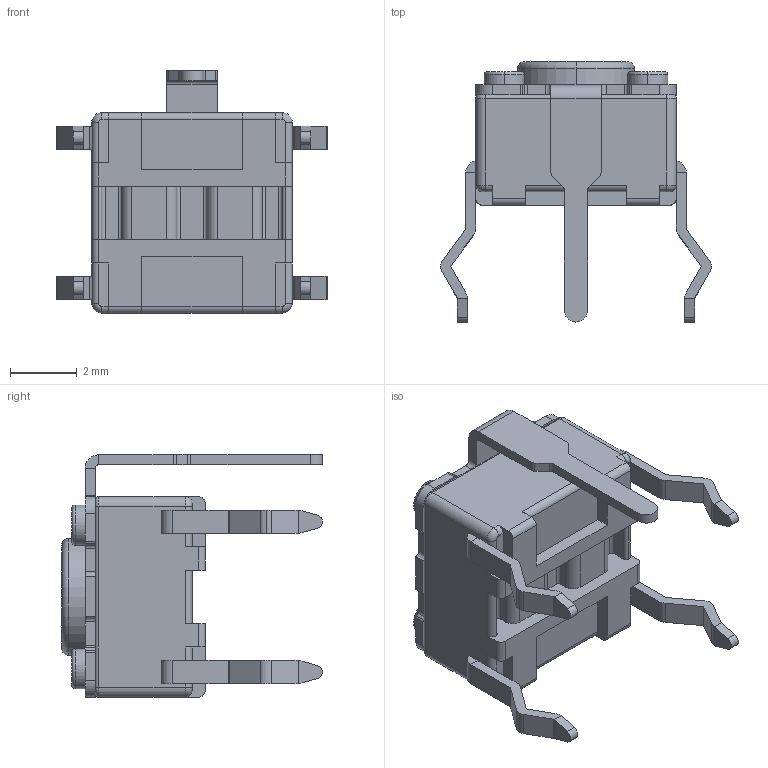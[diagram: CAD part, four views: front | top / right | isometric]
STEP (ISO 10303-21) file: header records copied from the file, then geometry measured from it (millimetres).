
FILE_DESCRIPTION (( 'STEP AP214' ), '1' );
FILE_NAME ('SKHHPJ.STEP', '2012-09-04T00:52:48', ( ' ' ), ( '' ), 'SwSTEP 2.0', 'SolidWorks 2010', '' );
FILE_SCHEMA (( 'AUTOMOTIVE_DESIGN' ));
Length unit declared in the file: millimetre
Products named in the file (1): SKHHPJ
Bounding box: 8.1 x 7.8 x 7.25 mm (x, y, z)
Volume: 131.9 mm3; surface area: 247.1 mm2
Topology: 1 solids, 1 shells, 286 faces, 754 edges, 476 vertices
Faces by surface type: plane 153, cylinder 115, torus 18
Entity records: 11847 total; most frequent: DIRECTION 1600, CARTESIAN_POINT 1517, ORIENTED_EDGE 1508, EDGE_CURVE 754, AXIS2_PLACEMENT_3D 559, LINE 482, VECTOR 482, VERTEX_POINT 476
